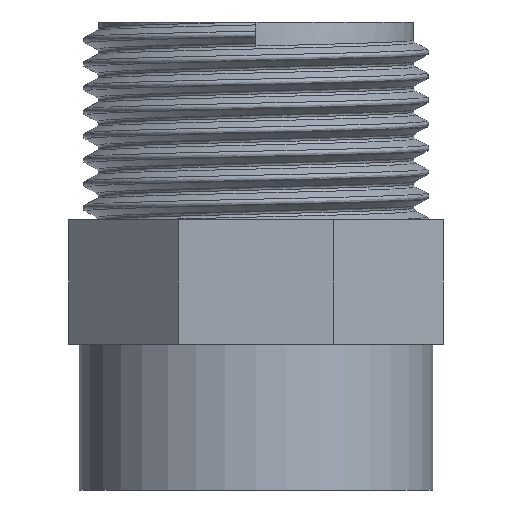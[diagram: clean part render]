
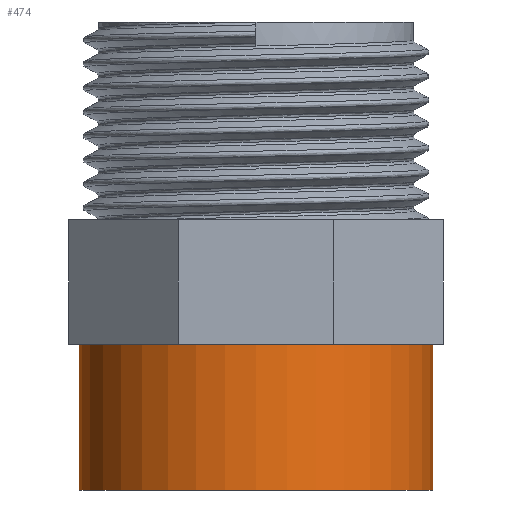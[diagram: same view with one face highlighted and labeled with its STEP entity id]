
A CAD part, front view. The second image highlights one B-rep face of the part: STEP entity #474.
In plain terms, the highlighted cylindrical face has radius 17 mm (diameter 34 mm), a full revolution.
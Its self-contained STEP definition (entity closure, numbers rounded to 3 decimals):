
#16=FACE_BOUND('',#155,.T.);
#24=CYLINDRICAL_SURFACE('',#504,17.);
#124=FACE_OUTER_BOUND('',#154,.T.);
#154=EDGE_LOOP('',(#414));
#155=EDGE_LOOP('',(#415));
#174=CIRCLE('',#503,17.);
#175=CIRCLE('',#505,17.);
#240=VERTEX_POINT('',#7937);
#241=VERTEX_POINT('',#7940);
#305=EDGE_CURVE('',#240,#240,#174,.T.);
#306=EDGE_CURVE('',#241,#241,#175,.T.);
#414=ORIENTED_EDGE('',*,*,#305,.T.);
#415=ORIENTED_EDGE('',*,*,#306,.T.);
#474=ADVANCED_FACE('',(#124,#16),#24,.T.);
#503=AXIS2_PLACEMENT_3D('',#7938,#587,#588);
#504=AXIS2_PLACEMENT_3D('',#7939,#589,#590);
#505=AXIS2_PLACEMENT_3D('',#7941,#591,#592);
#587=DIRECTION('center_axis',(0.,0.,-1.));
#588=DIRECTION('ref_axis',(1.,0.,0.));
#589=DIRECTION('center_axis',(0.,0.,1.));
#590=DIRECTION('ref_axis',(1.,0.,0.));
#591=DIRECTION('center_axis',(0.,0.,1.));
#592=DIRECTION('ref_axis',(1.,0.,0.));
#7937=CARTESIAN_POINT('',(17.,0.,14.));
#7938=CARTESIAN_POINT('Origin',(0.,0.,14.));
#7939=CARTESIAN_POINT('Origin',(0.,0.,13.));
#7940=CARTESIAN_POINT('',(17.,0.,0.));
#7941=CARTESIAN_POINT('Origin',(0.,0.,0.));
